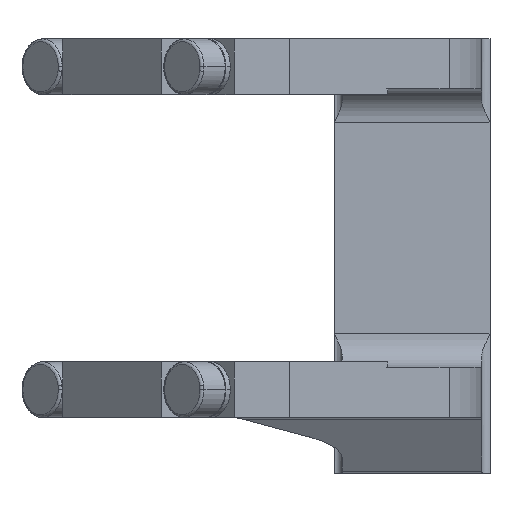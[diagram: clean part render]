
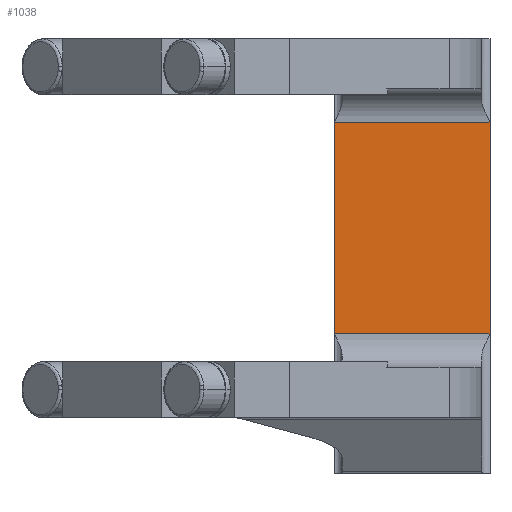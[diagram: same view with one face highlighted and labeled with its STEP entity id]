
A CAD part, front view. The second image highlights one B-rep face of the part: STEP entity #1038.
In plain terms, the highlighted planar face has unit normal (0, -1, 0).
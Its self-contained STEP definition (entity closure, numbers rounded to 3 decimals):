
#361=CARTESIAN_POINT('Vertex',(53.,80.,19.)) ;
#404=CARTESIAN_POINT('Vertex',(25.,80.,19.)) ;
#407=CARTESIAN_POINT('Line Origine',(7.5,80.,19.)) ;
#454=CARTESIAN_POINT('Line Origine',(53.,80.,0.)) ;
#458=CARTESIAN_POINT('Vertex',(53.,80.,-19.)) ;
#633=CARTESIAN_POINT('Vertex',(25.,80.,-19.)) ;
#636=CARTESIAN_POINT('Line Origine',(25.,80.,0.)) ;
#1022=CARTESIAN_POINT('Axis2P3D Location',(53.,80.,19.)) ;
#1027=CARTESIAN_POINT('Line Origine',(39.,80.,-19.)) ;
#408=DIRECTION('Vector Direction',(1.,0.,0.)) ;
#455=DIRECTION('Vector Direction',(0.,0.,1.)) ;
#637=DIRECTION('Vector Direction',(0.,0.,-1.)) ;
#1023=DIRECTION('Axis2P3D Direction',(0.,1.,0.)) ;
#1024=DIRECTION('Axis2P3D XDirection',(0.,0.,-1.)) ;
#1028=DIRECTION('Vector Direction',(-1.,0.,0.)) ;
#1025=AXIS2_PLACEMENT_3D('Plane Axis2P3D',#1022,#1023,#1024) ;
#1033=ORIENTED_EDGE('',*,*,#640,.F.) ;
#1034=ORIENTED_EDGE('',*,*,#1031,.F.) ;
#1035=ORIENTED_EDGE('',*,*,#460,.T.) ;
#1036=ORIENTED_EDGE('',*,*,#411,.T.) ;
#409=VECTOR('Line Direction',#408,1.) ;
#456=VECTOR('Line Direction',#455,1.) ;
#638=VECTOR('Line Direction',#637,1.) ;
#1029=VECTOR('Line Direction',#1028,1.) ;
#1038=ADVANCED_FACE('Brep With Voids',(#1037),#1026,.F.) ;
#411=EDGE_CURVE('',#362,#405,#410,.F.) ;
#460=EDGE_CURVE('',#459,#362,#457,.T.) ;
#640=EDGE_CURVE('',#634,#405,#639,.F.) ;
#1031=EDGE_CURVE('',#459,#634,#1030,.T.) ;
#1032=EDGE_LOOP('',(#1033,#1034,#1035,#1036)) ;
#1037=FACE_OUTER_BOUND('',#1032,.T.) ;
#410=LINE('Line',#407,#409) ;
#457=LINE('Line',#454,#456) ;
#639=LINE('Line',#636,#638) ;
#1030=LINE('Line',#1027,#1029) ;
#1026=PLANE('Plane',#1025) ;
#362=VERTEX_POINT('',#361) ;
#405=VERTEX_POINT('',#404) ;
#459=VERTEX_POINT('',#458) ;
#634=VERTEX_POINT('',#633) ;
